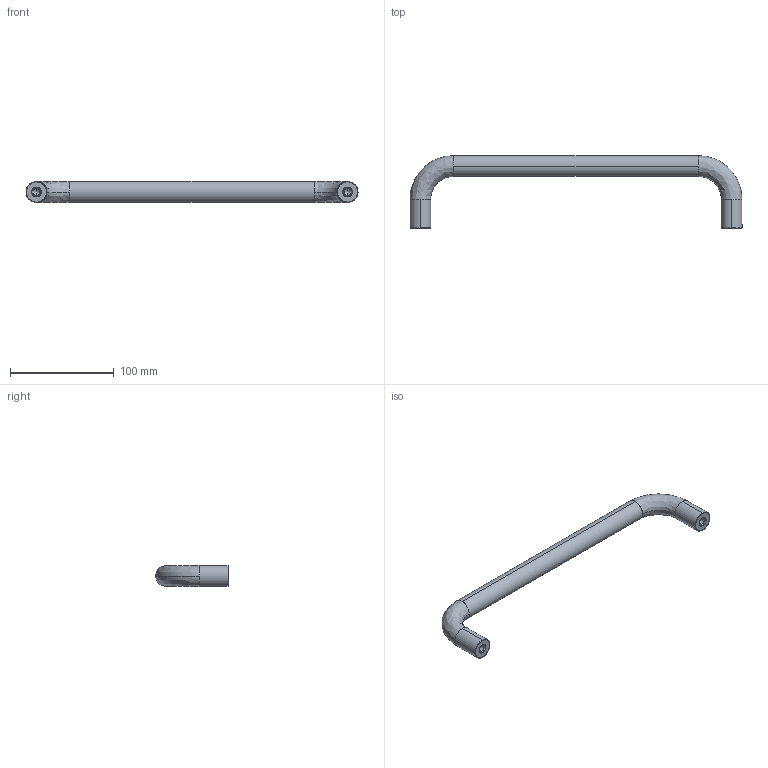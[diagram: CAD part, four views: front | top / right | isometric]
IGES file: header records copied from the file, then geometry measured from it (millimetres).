
Start section: SolidWorks IGES FILE using analytic representation for surfaces
Global section: file name: C:\WIX2\Knobs\7872\7872.W250-4.igs; native system: SolidWorks 2003 by SolidWorks Corporation; preprocessor: Version 5.3; author: Joan; date: 030722.094257; units: millimetre
Bounding box: 320 x 70 x 20 mm (x, y, z)
Surface area: 26213.1 mm2 (no closed solid volume)
Topology: 0 solids, 0 shells, 32 faces, 252 edges, 248 vertices
Faces by surface type: revolution 18, bspline 14
